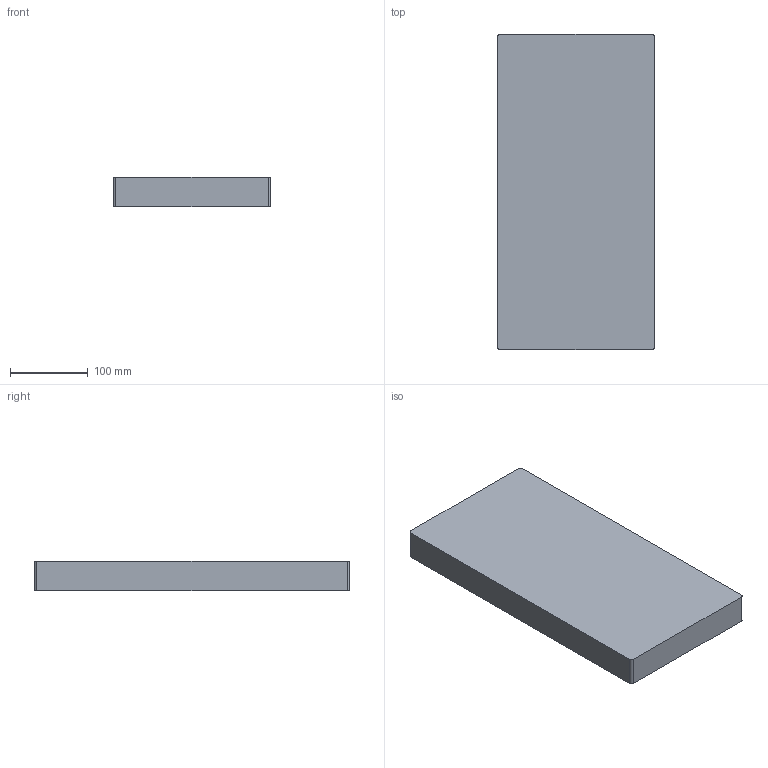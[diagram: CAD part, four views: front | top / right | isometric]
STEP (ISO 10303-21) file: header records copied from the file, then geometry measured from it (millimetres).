
FILE_DESCRIPTION(/* description */ (''),/* implementation_level */ '2;1');
FILE_NAME(/* name */ 'C:/Users/CAMStation2/Dropbox/Distributable/PPS/PPS 8x16 Pallet.step',/* time_stamp */ '2022-10-26T12:49:00-07:00',/* author */ (''),/* organization */ (''),/* preprocessor_version */ 'ST-DEVELOPER v19',/* originating_system */ 'Autodesk Translation Framework v11.7.0.108',/* authorisation */ '');
FILE_SCHEMA (('AUTOMOTIVE_DESIGN { 1 0 10303 214 3 1 1 }'));
Length unit declared in the file: inch
Products named in the file (1): (Unsaved)
Bounding box: 203.2 x 406.4 x 38.1 mm (x, y, z)
Volume: 3086727.6 mm3; surface area: 217910.7 mm2
Topology: 1 solids, 1 shells, 42 faces, 90 edges, 60 vertices
Faces by surface type: plane 24, cylinder 18
Full cylindrical faces by diameter (mm): 22.258 x2, 30.48 x2, 49.212 x2
Entity records: 1192 total; most frequent: DIRECTION 212, CARTESIAN_POINT 193, ORIENTED_EDGE 180, EDGE_CURVE 90, AXIS2_PLACEMENT_3D 79, VERTEX_POINT 60, LINE 54, VECTOR 54
